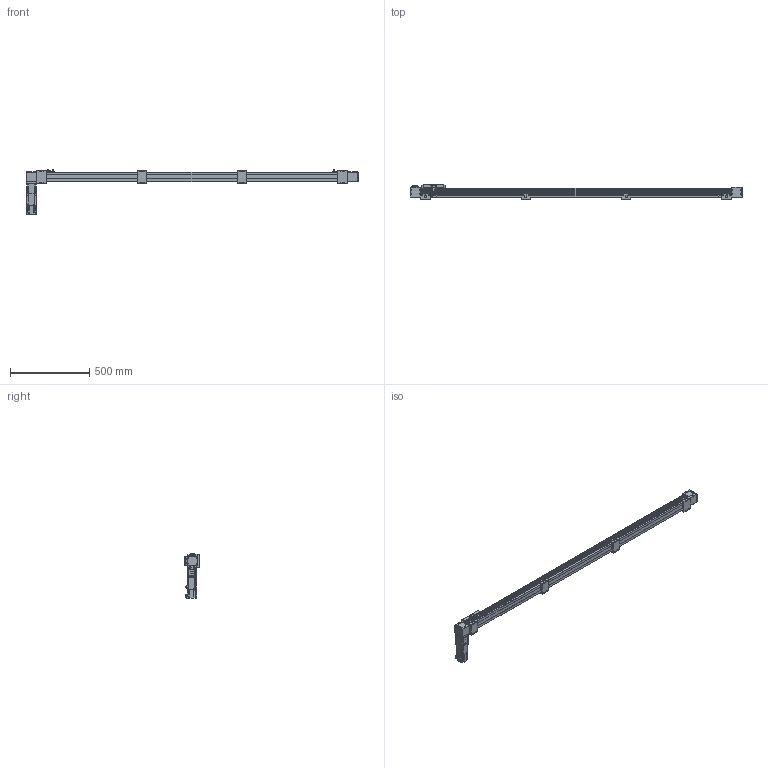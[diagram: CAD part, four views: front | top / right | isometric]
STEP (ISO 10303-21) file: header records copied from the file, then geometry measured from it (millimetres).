
FILE_DESCRIPTION(/* description */ ('STEP AP203'),/* implementation_level */ '2;1');
FILE_NAME(/* name */ 'SK60-P13-S1800-BR-T40-C1-N(0)',/* time_stamp */ '2023-04-06T04:00:38+02:00',/* author */ ('License CC BY-ND 4.0'),/* organization */ ('CADENAS'),/* preprocessor_version */ 'ST-DEVELOPER v19.3',/* originating_system */ 'PARTsolutions',/* authorisation */ ' ');
FILE_SCHEMA (('CONFIG_CONTROL_DESIGN'));
Length unit declared in the file: millimetre
Products named in the file (11): SK60-P13-S1800-BR-T40-C1-N(0); PSC140-sensor; SK60-S450_seat; SK60-S450-BL-C1_slider; SK60_body3; SK60_body6; SK60-BL_body2; T40-p1; SK60_body5; SK60_body4; SK60-S1800-BR-C1_body
Assembly tree (19 placements, depth 2):
  SK60-P13-S1800-BR-T40-C1-N(0)
    PSC140-sensor  x3
    SK60-S450_seat  x4
    SK60-S450-BL-C1_slider
    SK60_body3  x3
    SK60_body6  x2
    SK60-BL_body2  x2
    T40-p1
    SK60_body5
    SK60_body4
    SK60-S1800-BR-C1_body
Bounding box: 2100 x 90 x 279.1 mm (x, y, z)
Volume: 7733069.9 mm3; surface area: 973571.4 mm2
Topology: 19 solids, 23 shells, 922 faces, 2305 edges, 1522 vertices
Faces by surface type: plane 592, cylinder 298, cone 30, torus 2
Full cylindrical faces by diameter (mm): 2.8 x3, 3.3 x4, 4.2 x8, 4.5 x26, 4.6 x3, 4.917 x24, 5 x2, 5.478 x4, 5.5 x27, 6.5 x8, 8 x4, 8.5 x4, 9.988 x4, 10 x16, 13.556 x1, 14 x1, 14.586 x1, 19.692 x1, 38.432 x2, 43 x1, 44 x3, 47 x2, 50 x2
Entity records: 19387 total; most frequent: DIRECTION 3296, CARTESIAN_POINT 3291, ORIENTED_EDGE 3050, EDGE_CURVE 1525, AXIS2_PLACEMENT_3D 1102, LINE 1092, VECTOR 1092, VERTEX_POINT 1077
